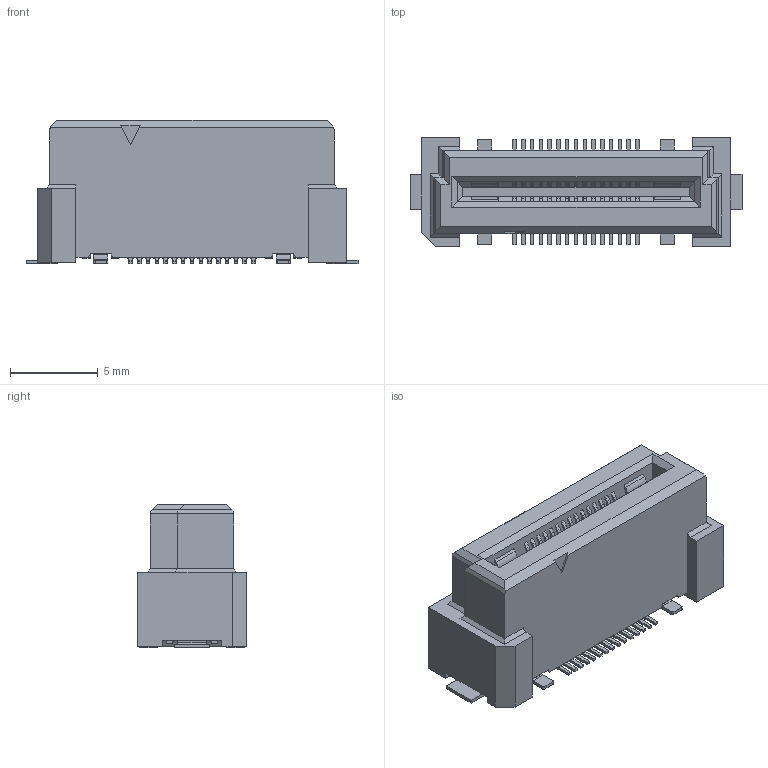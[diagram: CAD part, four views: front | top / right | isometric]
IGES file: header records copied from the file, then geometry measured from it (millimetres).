
Start section: Elysium IGES Interface
Global section: file name: 124HG:\その他\DT関連\DT_CADﾃﾞｰﾀ\DT_3DCAD(客先提出用)\プラグ\DT1XE(電源pin)\-10\DT10E-XXXS-10-T(WEB用)\P3E604_DT10E-030S-10-T.igs; native system: Creo Elements/Direct Modeling 20.6  25-Mar-2023; preprocessor: Creo Element/Direct IGES_3D V2.2; author: Unknown; organization: Unknown; date: 20240312.102149; units: millimetre
Bounding box: 18.9 x 6.2 x 8.18 mm (x, y, z)
Volume: 585.2 mm3; surface area: 733.7 mm2
Topology: 1 solids, 1 shells, 1361 faces, 3842 edges, 2528 vertices
Faces by surface type: bspline 1361
